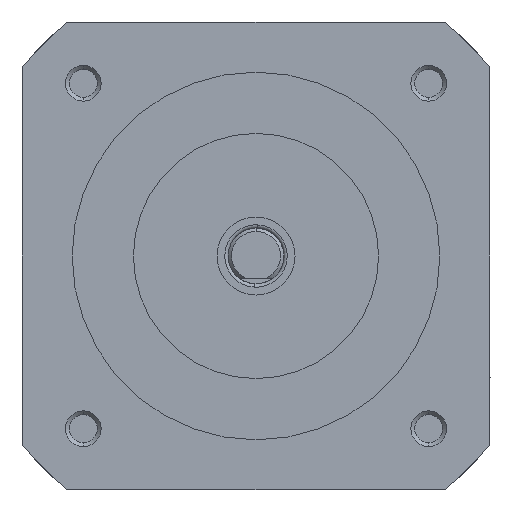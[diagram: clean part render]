
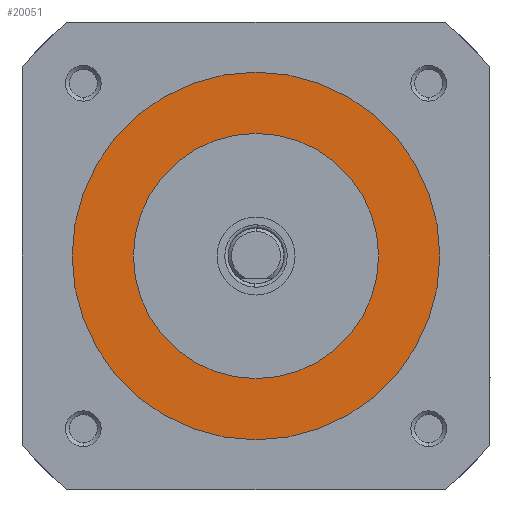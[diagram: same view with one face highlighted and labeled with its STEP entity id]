
A CAD part, left-side view. The second image highlights one B-rep face of the part: STEP entity #20051.
In plain terms, the highlighted planar face has unit normal (-1, 0, 0).
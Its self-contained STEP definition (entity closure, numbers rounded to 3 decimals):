
#983 = EDGE_CURVE ( 'NONE', #134914, #131347, #16374, .T. ) ;
#2526 = DIRECTION ( 'NONE',  ( 0., 0., 1. ) ) ;
#6961 = CARTESIAN_POINT ( 'NONE',  ( -61.142, -1.133, 71.732 ) ) ;
#8650 = DIRECTION ( 'NONE',  ( -1., 0., 0. ) ) ;
#9190 = VERTEX_POINT ( 'NONE', #178020 ) ;
#10065 = CIRCLE ( 'NONE', #124344, 11. ) ;
#16374 = CIRCLE ( 'NONE', #154289, 16.5 ) ;
#18261 = CARTESIAN_POINT ( 'NONE',  ( -61.142, -1.133, 38.732 ) ) ;
#18554 = DIRECTION ( 'NONE',  ( -1., 0., 0. ) ) ;
#20051 = ADVANCED_FACE ( 'NONE', ( #95895, #58868 ), #216593, .T. ) ;
#39558 = CARTESIAN_POINT ( 'NONE',  ( -61.142, -1.133, 55.232 ) ) ;
#39574 = AXIS2_PLACEMENT_3D ( 'NONE', #43644, #115211, #190569 ) ;
#43644 = CARTESIAN_POINT ( 'NONE',  ( -61.142, -1.133, 55.232 ) ) ;
#55293 = CIRCLE ( 'NONE', #63271, 16.5 ) ;
#57786 = EDGE_LOOP ( 'NONE', ( #219390, #165923 ) ) ;
#58868 = FACE_BOUND ( 'NONE', #57786, .T. ) ;
#59506 = CARTESIAN_POINT ( 'NONE',  ( -61.142, -1.133, 66.232 ) ) ;
#62152 = EDGE_LOOP ( 'NONE', ( #97610, #205718 ) ) ;
#63271 = AXIS2_PLACEMENT_3D ( 'NONE', #39558, #18554, #2526 ) ;
#69557 = DIRECTION ( 'NONE',  ( 0., 0., 1. ) ) ;
#92119 = AXIS2_PLACEMENT_3D ( 'NONE', #184258, #241201, #69557 ) ;
#94356 = VERTEX_POINT ( 'NONE', #59506 ) ;
#95895 = FACE_OUTER_BOUND ( 'NONE', #62152, .T. ) ;
#97610 = ORIENTED_EDGE ( 'NONE', *, *, #983, .T. ) ;
#115211 = DIRECTION ( 'NONE',  ( -1., 0., 0. ) ) ;
#123489 = DIRECTION ( 'NONE',  ( 0., 0., 1. ) ) ;
#124344 = AXIS2_PLACEMENT_3D ( 'NONE', #217438, #8650, #123489 ) ;
#131347 = VERTEX_POINT ( 'NONE', #18261 ) ;
#134914 = VERTEX_POINT ( 'NONE', #6961 ) ;
#154289 = AXIS2_PLACEMENT_3D ( 'NONE', #242442, #184284, #183013 ) ;
#165923 = ORIENTED_EDGE ( 'NONE', *, *, #224220, .F. ) ;
#169578 = EDGE_CURVE ( 'NONE', #9190, #94356, #10065, .T. ) ;
#178020 = CARTESIAN_POINT ( 'NONE',  ( -61.142, -1.133, 44.232 ) ) ;
#181324 = CIRCLE ( 'NONE', #39574, 11. ) ;
#183013 = DIRECTION ( 'NONE',  ( 0., 0., 1. ) ) ;
#184258 = CARTESIAN_POINT ( 'NONE',  ( -61.142, -1.133, 55.232 ) ) ;
#184284 = DIRECTION ( 'NONE',  ( -1., 0., 0. ) ) ;
#185195 = EDGE_CURVE ( 'NONE', #131347, #134914, #55293, .T. ) ;
#190569 = DIRECTION ( 'NONE',  ( 0., 0., 1. ) ) ;
#205718 = ORIENTED_EDGE ( 'NONE', *, *, #185195, .T. ) ;
#216593 = PLANE ( 'NONE',  #92119 ) ;
#217438 = CARTESIAN_POINT ( 'NONE',  ( -61.142, -1.133, 55.232 ) ) ;
#219390 = ORIENTED_EDGE ( 'NONE', *, *, #169578, .F. ) ;
#224220 = EDGE_CURVE ( 'NONE', #94356, #9190, #181324, .T. ) ;
#241201 = DIRECTION ( 'NONE',  ( -1., 0., 0. ) ) ;
#242442 = CARTESIAN_POINT ( 'NONE',  ( -61.142, -1.133, 55.232 ) ) ;
